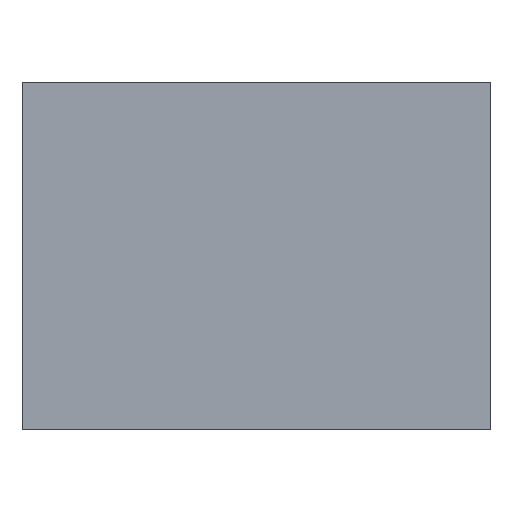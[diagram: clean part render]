
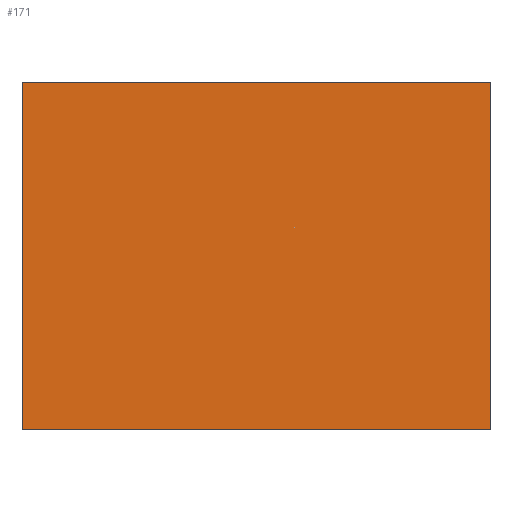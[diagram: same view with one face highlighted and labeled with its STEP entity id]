
A CAD part, front view. The second image highlights one B-rep face of the part: STEP entity #171.
In plain terms, the highlighted planar face has unit normal (0, -1, 0).
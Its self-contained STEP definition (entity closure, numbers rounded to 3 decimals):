
#70 = CARTESIAN_POINT ( 'NONE',  ( 38.5, -80., 0. ) ) ;
#110 = EDGE_CURVE ( 'NONE', #585, #1461, #1252, .T. ) ;
#171 = ADVANCED_FACE ( 'NONE', ( #1466 ), #1354, .F. ) ;
#178 = EDGE_CURVE ( 'NONE', #602, #981, #1004, .T. ) ;
#268 = ORIENTED_EDGE ( 'NONE', *, *, #110, .T. ) ;
#435 = ORIENTED_EDGE ( 'NONE', *, *, #607, .F. ) ;
#522 = CARTESIAN_POINT ( 'NONE',  ( -38.5, -80., 0. ) ) ;
#552 = DIRECTION ( 'NONE',  ( 0., 0., 1. ) ) ;
#575 = VECTOR ( 'NONE', #1685, 1000. ) ;
#585 = VERTEX_POINT ( 'NONE', #522 ) ;
#602 = VERTEX_POINT ( 'NONE', #928 ) ;
#607 = EDGE_CURVE ( 'NONE', #981, #1461, #1342, .T. ) ;
#667 = CARTESIAN_POINT ( 'NONE',  ( -38.5, -80., 57. ) ) ;
#671 = CARTESIAN_POINT ( 'NONE',  ( 38.5, -80., 57. ) ) ;
#677 = DIRECTION ( 'NONE',  ( 1., 0., 0. ) ) ;
#697 = EDGE_CURVE ( 'NONE', #602, #585, #948, .T. ) ;
#728 = EDGE_LOOP ( 'NONE', ( #268, #435, #1343, #1333 ) ) ;
#804 = VECTOR ( 'NONE', #1477, 1000. ) ;
#928 = CARTESIAN_POINT ( 'NONE',  ( -38.5, -80., 57. ) ) ;
#948 = LINE ( 'NONE', #1534, #575 ) ;
#969 = DIRECTION ( 'NONE',  ( 1., 0., 0. ) ) ;
#981 = VERTEX_POINT ( 'NONE', #671 ) ;
#1004 = LINE ( 'NONE', #1374, #1226 ) ;
#1068 = CARTESIAN_POINT ( 'NONE',  ( 38.5, -80., 57. ) ) ;
#1185 = VECTOR ( 'NONE', #677, 1000. ) ;
#1224 = DIRECTION ( 'NONE',  ( 0., 1., 0. ) ) ;
#1226 = VECTOR ( 'NONE', #969, 1000. ) ;
#1252 = LINE ( 'NONE', #1360, #1185 ) ;
#1333 = ORIENTED_EDGE ( 'NONE', *, *, #697, .T. ) ;
#1342 = LINE ( 'NONE', #1068, #804 ) ;
#1343 = ORIENTED_EDGE ( 'NONE', *, *, #178, .F. ) ;
#1354 = PLANE ( 'NONE',  #1765 ) ;
#1360 = CARTESIAN_POINT ( 'NONE',  ( -38.5, -80., 0. ) ) ;
#1374 = CARTESIAN_POINT ( 'NONE',  ( -38.5, -80., 57. ) ) ;
#1461 = VERTEX_POINT ( 'NONE', #70 ) ;
#1466 = FACE_OUTER_BOUND ( 'NONE', #728, .T. ) ;
#1477 = DIRECTION ( 'NONE',  ( 0., 0., -1. ) ) ;
#1534 = CARTESIAN_POINT ( 'NONE',  ( -38.5, -80., 57. ) ) ;
#1685 = DIRECTION ( 'NONE',  ( 0., 0., -1. ) ) ;
#1765 = AXIS2_PLACEMENT_3D ( 'NONE', #667, #1224, #552 ) ;
